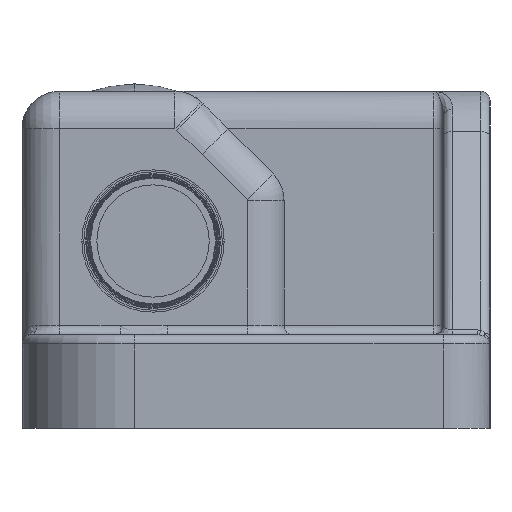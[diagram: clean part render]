
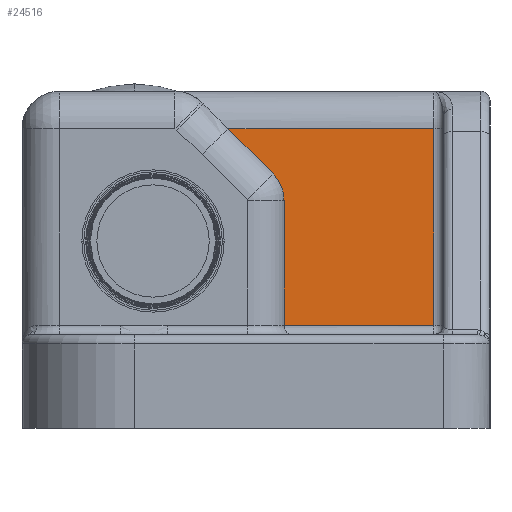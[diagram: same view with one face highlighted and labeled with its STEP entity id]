
A CAD part, left-side view. The second image highlights one B-rep face of the part: STEP entity #24516.
In plain terms, the highlighted planar face has unit normal (-1, 0, 0).
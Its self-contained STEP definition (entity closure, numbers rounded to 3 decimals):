
#503 = CARTESIAN_POINT ( 'NONE',  ( 10., 3., 5.5 ) ) ;
#1392 = ORIENTED_EDGE ( 'NONE', *, *, #21046, .F. ) ;
#1544 = ORIENTED_EDGE ( 'NONE', *, *, #1882, .F. ) ;
#1627 = CARTESIAN_POINT ( 'NONE',  ( 10., 3., 16. ) ) ;
#1711 = CIRCLE ( 'NONE', #14093, 2. ) ;
#1777 = ORIENTED_EDGE ( 'NONE', *, *, #6979, .T. ) ;
#1882 = EDGE_CURVE ( 'NONE', #5674, #14332, #22279, .T. ) ;
#2441 = FACE_OUTER_BOUND ( 'NONE', #15857, .T. ) ;
#2557 = AXIS2_PLACEMENT_3D ( 'NONE', #23473, #4667, #18013 ) ;
#3345 = CARTESIAN_POINT ( 'NONE',  ( 10., 11., 5.5 ) ) ;
#3841 = DIRECTION ( 'NONE',  ( 0., -1., 0. ) ) ;
#3987 = LINE ( 'NONE', #20978, #15276 ) ;
#4046 = EDGE_CURVE ( 'NONE', #17611, #10801, #8867, .T. ) ;
#4120 = DIRECTION ( 'NONE',  ( 0., 1., 0. ) ) ;
#4319 = CARTESIAN_POINT ( 'NONE',  ( 10., 25., 16. ) ) ;
#4351 = DIRECTION ( 'NONE',  ( -1., 0., 0. ) ) ;
#4667 = DIRECTION ( 'NONE',  ( 1., 0., 0. ) ) ;
#5674 = VERTEX_POINT ( 'NONE', #20995 ) ;
#6715 = VERTEX_POINT ( 'NONE', #24184 ) ;
#6979 = EDGE_CURVE ( 'NONE', #10801, #14332, #9116, .T. ) ;
#8747 = CARTESIAN_POINT ( 'NONE',  ( 10., 14., 16. ) ) ;
#8867 = LINE ( 'NONE', #9660, #9100 ) ;
#9100 = VECTOR ( 'NONE', #9578, 1000. ) ;
#9116 = LINE ( 'NONE', #4319, #15612 ) ;
#9578 = DIRECTION ( 'NONE',  ( 0., 0., 1. ) ) ;
#9660 = CARTESIAN_POINT ( 'NONE',  ( 10., 3., -29.682 ) ) ;
#9780 = CARTESIAN_POINT ( 'NONE',  ( 10., 11., 12.172 ) ) ;
#10572 = ORIENTED_EDGE ( 'NONE', *, *, #14630, .F. ) ;
#10801 = VERTEX_POINT ( 'NONE', #1627 ) ;
#10922 = ORIENTED_EDGE ( 'NONE', *, *, #4046, .T. ) ;
#11278 = ORIENTED_EDGE ( 'NONE', *, *, #13137, .T. ) ;
#12230 = PLANE ( 'NONE',  #2557 ) ;
#13137 = EDGE_CURVE ( 'NONE', #13981, #17611, #3987, .T. ) ;
#13398 = VECTOR ( 'NONE', #21193, 1000. ) ;
#13783 = DIRECTION ( 'NONE',  ( 0., 0.707, 0.707 ) ) ;
#13981 = VERTEX_POINT ( 'NONE', #3345 ) ;
#14093 = AXIS2_PLACEMENT_3D ( 'NONE', #15765, #4351, #17688 ) ;
#14196 = CARTESIAN_POINT ( 'NONE',  ( 10., 11.586, 13.586 ) ) ;
#14332 = VERTEX_POINT ( 'NONE', #8747 ) ;
#14630 = EDGE_CURVE ( 'NONE', #13981, #6715, #24371, .T. ) ;
#15276 = VECTOR ( 'NONE', #3841, 1000. ) ;
#15612 = VECTOR ( 'NONE', #4120, 1000. ) ;
#15765 = CARTESIAN_POINT ( 'NONE',  ( 10., 13., 12.172 ) ) ;
#15857 = EDGE_LOOP ( 'NONE', ( #10572, #11278, #10922, #1777, #1544, #1392 ) ) ;
#17611 = VERTEX_POINT ( 'NONE', #503 ) ;
#17688 = DIRECTION ( 'NONE',  ( 0., 0., -1. ) ) ;
#18013 = DIRECTION ( 'NONE',  ( 0., 0., -1. ) ) ;
#20978 = CARTESIAN_POINT ( 'NONE',  ( 10., 3., 5.5 ) ) ;
#20995 = CARTESIAN_POINT ( 'NONE',  ( 10., 11.586, 13.586 ) ) ;
#21046 = EDGE_CURVE ( 'NONE', #6715, #5674, #1711, .T. ) ;
#21193 = DIRECTION ( 'NONE',  ( 0., 0., 1. ) ) ;
#21362 = VECTOR ( 'NONE', #13783, 1000. ) ;
#22279 = LINE ( 'NONE', #14196, #21362 ) ;
#23473 = CARTESIAN_POINT ( 'NONE',  ( 10., 25., -29.682 ) ) ;
#24184 = CARTESIAN_POINT ( 'NONE',  ( 10., 11., 12.172 ) ) ;
#24371 = LINE ( 'NONE', #9780, #13398 ) ;
#24516 = ADVANCED_FACE ( 'NONE', ( #2441 ), #12230, .F. ) ;
